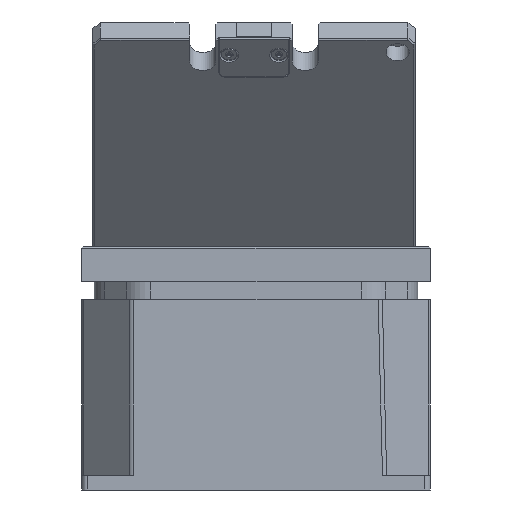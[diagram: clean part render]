
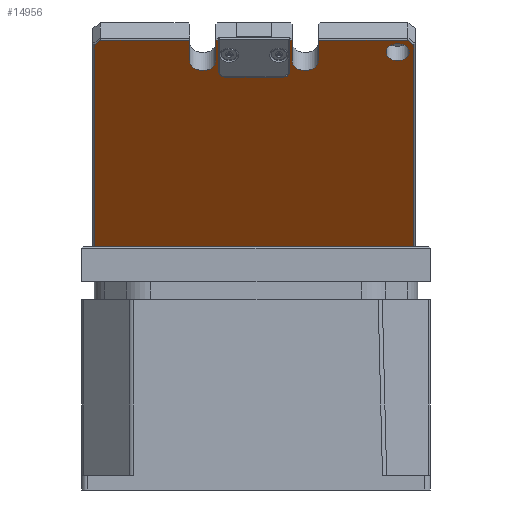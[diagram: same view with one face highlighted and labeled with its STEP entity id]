
A CAD part, left-side view. The second image highlights one B-rep face of the part: STEP entity #14956.
In plain terms, the highlighted planar face has unit normal (-0.74, 0, -0.673) as drawn and (0, 0, -1) by its records, which use the part's own axes.
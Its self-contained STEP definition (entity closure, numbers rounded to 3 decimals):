
#474=FACE_BOUND('',#2657,.T.);
#702=PLANE('',#16493);
#1746=FACE_OUTER_BOUND('',#2656,.T.);
#2656=EDGE_LOOP('',(#12316,#12317,#12318,#12319,#12320,#12321,#12322,#12323,
#12324,#12325,#12326,#12327,#12328,#12329,#12330,#12331,#12332,#12333,#12334,
#12335));
#2657=EDGE_LOOP('',(#12336));
#3575=LINE('',#28299,#4823);
#3580=LINE('',#28310,#4828);
#3587=LINE('',#28326,#4835);
#3605=LINE('',#28367,#4853);
#3606=LINE('',#28370,#4854);
#3610=LINE('',#28377,#4858);
#3661=LINE('',#28560,#4909);
#3667=LINE('',#28578,#4915);
#3670=LINE('',#28583,#4918);
#3671=LINE('',#28585,#4919);
#3679=LINE('',#28600,#4927);
#3693=LINE('',#28632,#4941);
#3696=LINE('',#28637,#4944);
#3738=LINE('',#28763,#4986);
#3740=LINE('',#28767,#4988);
#3743=LINE('',#28774,#4991);
#4823=VECTOR('',#19232,10.);
#4828=VECTOR('',#19243,10.);
#4835=VECTOR('',#19254,10.);
#4853=VECTOR('',#19292,10.);
#4854=VECTOR('',#19295,10.);
#4858=VECTOR('',#19301,10.);
#4909=VECTOR('',#19366,10.);
#4915=VECTOR('',#19382,10.);
#4918=VECTOR('',#19387,10.);
#4919=VECTOR('',#19390,10.);
#4927=VECTOR('',#19400,10.);
#4941=VECTOR('',#19426,10.);
#4944=VECTOR('',#19431,10.);
#4986=VECTOR('',#19569,10.);
#4988=VECTOR('',#19573,10.);
#4991=VECTOR('',#19582,10.);
#5919=CIRCLE('',#16401,4.5);
#5922=CIRCLE('',#16413,4.5);
#5926=CIRCLE('',#16425,3.95);
#5949=CIRCLE('',#16489,2.);
#5950=CIRCLE('',#16492,2.);
#7012=VERTEX_POINT('',#28296);
#7013=VERTEX_POINT('',#28298);
#7014=VERTEX_POINT('',#28302);
#7016=VERTEX_POINT('',#28308);
#7022=VERTEX_POINT('',#28323);
#7023=VERTEX_POINT('',#28325);
#7034=VERTEX_POINT('',#28359);
#7036=VERTEX_POINT('',#28365);
#7037=VERTEX_POINT('',#28369);
#7039=VERTEX_POINT('',#28375);
#7102=VERTEX_POINT('',#28559);
#7104=VERTEX_POINT('',#28565);
#7108=VERTEX_POINT('',#28575);
#7109=VERTEX_POINT('',#28577);
#7110=VERTEX_POINT('',#28581);
#7116=VERTEX_POINT('',#28598);
#7128=VERTEX_POINT('',#28631);
#7164=VERTEX_POINT('',#28760);
#7165=VERTEX_POINT('',#28762);
#7166=VERTEX_POINT('',#28766);
#7167=VERTEX_POINT('',#28772);
#8788=EDGE_CURVE('',#7013,#7012,#3575,.T.);
#8791=EDGE_CURVE('',#7012,#7014,#5919,.T.);
#8794=EDGE_CURVE('',#7014,#7016,#3580,.T.);
#8801=EDGE_CURVE('',#7023,#7022,#3587,.T.);
#8819=EDGE_CURVE('',#7022,#7034,#5922,.T.);
#8822=EDGE_CURVE('',#7034,#7036,#3605,.T.);
#8823=EDGE_CURVE('',#7013,#7037,#3606,.T.);
#8827=EDGE_CURVE('',#7039,#7016,#3610,.T.);
#8895=EDGE_CURVE('',#7023,#7102,#3661,.T.);
#8898=EDGE_CURVE('',#7104,#7104,#5926,.T.);
#8903=EDGE_CURVE('',#7108,#7109,#3667,.T.);
#8906=EDGE_CURVE('',#7110,#7036,#3670,.T.);
#8907=EDGE_CURVE('',#7109,#7110,#3671,.T.);
#8915=EDGE_CURVE('',#7116,#7108,#3679,.T.);
#8931=EDGE_CURVE('',#7128,#7116,#3693,.T.);
#8934=EDGE_CURVE('',#7037,#7128,#3696,.T.);
#8996=EDGE_CURVE('',#7165,#7164,#3738,.T.);
#8998=EDGE_CURVE('',#7166,#7102,#3740,.T.);
#9000=EDGE_CURVE('',#7164,#7166,#5949,.T.);
#9002=EDGE_CURVE('',#7039,#7167,#3743,.T.);
#9003=EDGE_CURVE('',#7167,#7165,#5950,.T.);
#12316=ORIENTED_EDGE('',*,*,#8794,.T.);
#12317=ORIENTED_EDGE('',*,*,#8827,.F.);
#12318=ORIENTED_EDGE('',*,*,#9002,.T.);
#12319=ORIENTED_EDGE('',*,*,#9003,.T.);
#12320=ORIENTED_EDGE('',*,*,#8996,.T.);
#12321=ORIENTED_EDGE('',*,*,#9000,.T.);
#12322=ORIENTED_EDGE('',*,*,#8998,.T.);
#12323=ORIENTED_EDGE('',*,*,#8895,.F.);
#12324=ORIENTED_EDGE('',*,*,#8801,.T.);
#12325=ORIENTED_EDGE('',*,*,#8819,.T.);
#12326=ORIENTED_EDGE('',*,*,#8822,.T.);
#12327=ORIENTED_EDGE('',*,*,#8906,.F.);
#12328=ORIENTED_EDGE('',*,*,#8907,.F.);
#12329=ORIENTED_EDGE('',*,*,#8903,.F.);
#12330=ORIENTED_EDGE('',*,*,#8915,.F.);
#12331=ORIENTED_EDGE('',*,*,#8931,.F.);
#12332=ORIENTED_EDGE('',*,*,#8934,.F.);
#12333=ORIENTED_EDGE('',*,*,#8823,.F.);
#12334=ORIENTED_EDGE('',*,*,#8788,.T.);
#12335=ORIENTED_EDGE('',*,*,#8791,.T.);
#12336=ORIENTED_EDGE('',*,*,#8898,.T.);
#14956=ADVANCED_FACE('',(#1746,#474),#702,.F.);
#16401=AXIS2_PLACEMENT_3D('',#28304,#19237,#19238);
#16413=AXIS2_PLACEMENT_3D('',#28361,#19286,#19287);
#16425=AXIS2_PLACEMENT_3D('',#28566,#19371,#19372);
#16489=AXIS2_PLACEMENT_3D('',#28770,#19577,#19578);
#16492=AXIS2_PLACEMENT_3D('',#28776,#19585,#19586);
#16493=AXIS2_PLACEMENT_3D('',#28777,#19587,#19588);
#19232=DIRECTION('',(0.,1.,0.));
#19237=DIRECTION('center_axis',(0.,0.,1.));
#19238=DIRECTION('ref_axis',(-1.,0.,0.));
#19243=DIRECTION('',(0.,-1.,0.));
#19254=DIRECTION('',(0.,1.,0.));
#19286=DIRECTION('center_axis',(0.,0.,1.));
#19287=DIRECTION('ref_axis',(1.,0.,0.));
#19292=DIRECTION('',(0.,-1.,0.));
#19295=DIRECTION('',(1.,0.,0.));
#19301=DIRECTION('',(1.,0.,0.));
#19366=DIRECTION('',(1.,0.,0.));
#19371=DIRECTION('center_axis',(0.,0.,1.));
#19372=DIRECTION('ref_axis',(-1.,0.,0.));
#19382=DIRECTION('',(0.,-1.,0.));
#19387=DIRECTION('',(1.,0.,0.));
#19390=DIRECTION('',(0.707,-0.707,0.));
#19400=DIRECTION('',(-1.,0.,0.));
#19426=DIRECTION('',(0.,1.,0.));
#19431=DIRECTION('',(0.707,0.707,0.));
#19569=DIRECTION('',(-1.,0.,0.));
#19573=DIRECTION('',(0.,-1.,0.));
#19577=DIRECTION('center_axis',(0.,0.,1.));
#19578=DIRECTION('ref_axis',(-1.,0.,0.));
#19582=DIRECTION('',(0.,1.,0.));
#19585=DIRECTION('center_axis',(0.,0.,1.));
#19586=DIRECTION('ref_axis',(0.,1.,0.));
#19587=DIRECTION('center_axis',(0.,0.,1.));
#19588=DIRECTION('ref_axis',(1.,0.,0.));
#28296=CARTESIAN_POINT('',(22.,-44.75,0.));
#28298=CARTESIAN_POINT('',(22.,-54.25,0.));
#28299=CARTESIAN_POINT('',(22.,-27.375,0.));
#28302=CARTESIAN_POINT('',(13.,-44.75,0.));
#28304=CARTESIAN_POINT('Origin',(17.5,-44.75,0.));
#28308=CARTESIAN_POINT('',(13.,-54.25,0.));
#28310=CARTESIAN_POINT('',(13.,-22.375,0.));
#28323=CARTESIAN_POINT('',(-13.,-44.75,0.));
#28325=CARTESIAN_POINT('',(-13.,-54.25,0.));
#28326=CARTESIAN_POINT('',(-13.,-27.375,0.));
#28359=CARTESIAN_POINT('',(-22.,-44.75,0.));
#28361=CARTESIAN_POINT('Origin',(-17.5,-44.75,0.));
#28365=CARTESIAN_POINT('',(-22.,-54.25,0.));
#28367=CARTESIAN_POINT('',(-22.,-22.375,0.));
#28369=CARTESIAN_POINT('',(52.293,-54.25,0.));
#28370=CARTESIAN_POINT('',(-27.5,-54.25,0.));
#28375=CARTESIAN_POINT('',(12.,-54.25,0.));
#28377=CARTESIAN_POINT('',(-27.5,-54.25,0.));
#28559=CARTESIAN_POINT('',(-12.,-54.25,0.));
#28560=CARTESIAN_POINT('',(-27.5,-54.25,0.));
#28565=CARTESIAN_POINT('',(52.95,-48.75,0.));
#28566=CARTESIAN_POINT('Origin',(49.,-48.75,0.));
#28575=CARTESIAN_POINT('',(-54.5,51.25,0.));
#28577=CARTESIAN_POINT('',(-54.5,-52.043,0.));
#28578=CARTESIAN_POINT('',(-54.5,27.375,0.));
#28581=CARTESIAN_POINT('',(-52.293,-54.25,0.));
#28583=CARTESIAN_POINT('',(-27.5,-54.25,0.));
#28585=CARTESIAN_POINT('',(-53.334,-53.209,0.));
#28598=CARTESIAN_POINT('',(54.5,51.25,0.));
#28600=CARTESIAN_POINT('',(27.5,51.25,0.));
#28631=CARTESIAN_POINT('',(54.5,-52.043,0.));
#28632=CARTESIAN_POINT('',(54.5,-27.375,0.));
#28637=CARTESIAN_POINT('',(53.334,-53.209,0.));
#28760=CARTESIAN_POINT('',(-10.,-37.25,0.));
#28762=CARTESIAN_POINT('',(10.,-37.25,0.));
#28763=CARTESIAN_POINT('',(5.,-37.25,0.));
#28766=CARTESIAN_POINT('',(-12.,-39.25,0.));
#28767=CARTESIAN_POINT('',(-12.,-19.625,0.));
#28770=CARTESIAN_POINT('Origin',(-10.,-39.25,0.));
#28772=CARTESIAN_POINT('',(12.,-39.25,0.));
#28774=CARTESIAN_POINT('',(12.,-27.375,0.));
#28776=CARTESIAN_POINT('Origin',(10.,-39.25,0.));
#28777=CARTESIAN_POINT('Origin',(0.,0.,
0.));
